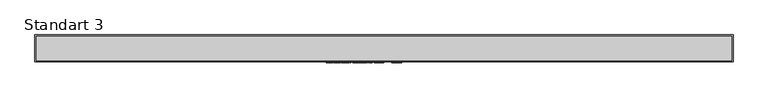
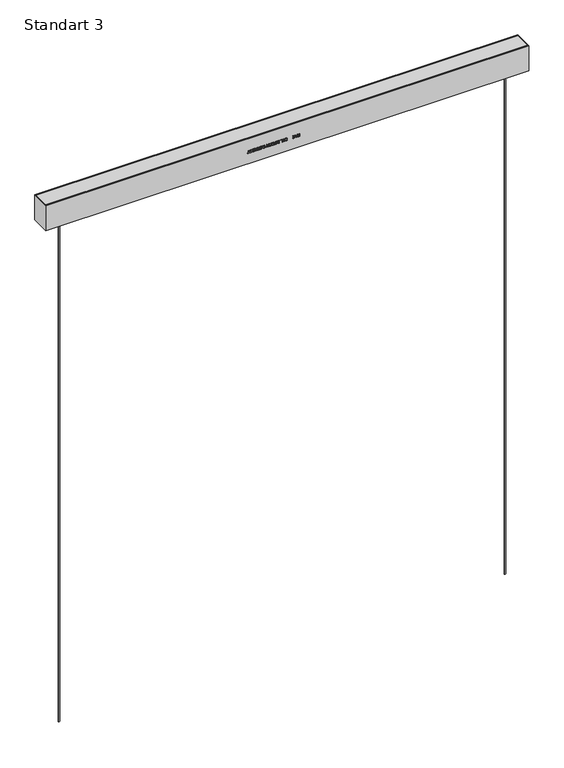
"""IFC4 building model written with IfcOpenShell, lengths in millimetres: light fixture geometry, EAE_STL_DIRECT_INDIRECT_TK_62W : Standart 3."""

from ifc_helpers import new_model, si_unit, point, frame, frame_2d, origin, origin_with_axes, place, context, project, spatial, polyline, circle_curve, trimmed, segment, composite_curve, outline, extrude, source, transform, mapped, element, save


def standart_3_6d86efcd(model_context):
    return source(origin(), model_context, "Body", "SweptSolid", [
        extrude(outline(polyline([(1662.8476945, -76.4051608), (1662.8476945, -140.4051608), (-151.1523055, -140.4051608), (-151.1523055, -76.4051608), (1662.8476945, -76.4051608)])), frame((0.0, 0.0, 2000.0), z_axis=(0.0, 0.0, 1.0), x_axis=(1.0, 0.0, 0.0)), (0.0, 0.0, 1.0), 2.0),
        extrude(outline(composite_curve([segment(trimmed(circle_curve(frame_2d((1595.8476945, -108.4051608)), 2.5), [point((1593.3476945, -108.4051608))], [point((1598.3476945, -108.4051608))], False, "CARTESIAN"), True, "CONTINUOUS"), segment(trimmed(circle_curve(frame_2d((1595.8476945, -108.4051608)), 2.5), [point((1598.3476945, -108.4051608))], [point((1593.3476945, -108.4051608))], False, "CARTESIAN"), True, "CONTINUOUS")], self_intersect=False)), origin_with_axes(), (0.0, 0.0, 1.0), 2000.0),
        extrude(outline(composite_curve([segment(trimmed(circle_curve(frame_2d((-84.1523055, -108.4051608)), 2.5), [point((-86.6523055, -108.4051608))], [point((-81.6523055, -108.4051608))], False, "CARTESIAN"), True, "CONTINUOUS"), segment(trimmed(circle_curve(frame_2d((-84.1523055, -108.4051608)), 2.5), [point((-81.6523055, -108.4051608))], [point((-86.6523055, -108.4051608))], False, "CARTESIAN"), True, "CONTINUOUS")], self_intersect=False)), origin_with_axes(), (0.0, 0.0, 1.0), 2000.0),
        extrude(outline(polyline([(2048.7063353, 755.2198426), (2050.6242268, 754.6778298), (2051.8946459, 753.2590316), (2052.3164839, 751.0161777), (2051.9253027, 749.1166803), (2050.8290144, 747.8217357), (2049.3268296, 747.3716934), (2047.9068051, 747.7628746), (2046.8889982, 748.9781114), (2046.2586937, 751.2001187), (2045.5572654, 753.2504477), (2044.6866114, 753.6502128), (2043.644279, 753.086127), (2043.2126308, 751.2884103), (2043.6491841, 749.4955988), (2044.9392237, 748.7843602), (2044.9392237, 747.5286564), (2043.3671413, 748.0265233), (2042.3149988, 749.3508985), (2041.956927, 751.3374613), (2042.2990572, 753.1989442), (2043.3021488, 754.4705896), (2044.7233996, 754.9059166), (2045.9717458, 754.5539762), (2046.9061661, 753.4858921), (2047.5254341, 751.5177235), (2048.004907, 749.6893499), (2048.575124, 748.8358637), (2049.3587127, 748.6273972), (2050.2011625, 748.9057613), (2050.8314669, 749.7531162), (2051.0607801, 751.0652286), (2050.7578905, 752.5710922), (2049.9632654, 753.5594685), (2048.7063353, 753.9641387), (2048.7063353, 755.2198426)])), frame((0.0, -145.4051608, 0.0), z_axis=(0.0, 1.0, 0.0), x_axis=(0.0, 0.0, 1.0)), (0.0, 0.0, 1.0), 2.0),
        extrude(outline(polyline([(2052.1595209, 742.9767298), (2052.1595209, 741.7210259), (2043.3695938, 741.7210259), (2043.3695938, 738.4248033), (2042.1138899, 738.4248033), (2042.1138899, 746.2729525), (2043.3695938, 746.2729525), (2043.3695938, 742.9767298), (2052.1595209, 742.9767298)])), frame((0.0, -145.4051608, 0.0), z_axis=(0.0, 1.0, 0.0), x_axis=(0.0, 0.0, 1.0)), (0.0, 0.0, 1.0), 2.0),
        extrude(outline(polyline([(2052.1595209, 737.0121364), (2052.1595209, 730.733617), (2050.9038171, 730.733617), (2050.9038171, 735.7564325), (2042.1138899, 735.7564325), (2042.1138899, 737.0121364), (2052.1595209, 737.0121364)])), frame((0.0, -145.4051608, 0.0), z_axis=(0.0, 1.0, 0.0), x_axis=(0.0, 0.0, 1.0)), (0.0, 0.0, 1.0), 2.0),
        extrude(outline(polyline([(2052.1595209, 725.3968755), (2052.1595209, 721.764654), (2051.9878427, 720.149652), (2051.4838444, 718.9491304), (2050.5727233, 718.031878), (2049.1097792, 717.3451649), (2047.0827494, 717.0778373), (2044.693969, 717.4726974), (2042.9771864, 718.6621825), (2042.2585902, 720.1386155), (2042.1138899, 721.9314271), (2042.1138899, 725.3968755), (2052.1595209, 725.3968755)]), holes=[polyline([(2050.9038171, 724.1411717), (2043.3695938, 724.1411717), (2043.3695938, 721.9535001), (2043.5707026, 720.1729512), (2044.6841588, 718.8694227), (2047.063129, 718.3335412), (2048.9626264, 718.6070002), (2050.2097464, 719.3709684), (2050.7223286, 720.3029362), (2050.9038171, 721.9191644), (2050.9038171, 724.1411717)])]), frame((0.0, -145.4051608, 0.0), z_axis=(0.0, 1.0, 0.0), x_axis=(0.0, 0.0, 1.0)), (0.0, 0.0, 1.0), 2.0),
        extrude(outline(polyline([(715.1942815, -145.4051608), (713.9385777, -145.4051608), (713.9385777, -143.4051608), (715.1942815, -143.4051608), (715.1942815, -145.4051608)])), frame((0.0, 0.0, 2042.1138899), z_axis=(0.0, 0.0, 1.0), x_axis=(1.0, 0.0, 0.0)), (0.0, 0.0, 1.0), 10.045631),
        extrude(outline(polyline([(2052.1595209, 711.4271699), (2052.1595209, 710.171466), (2047.7645574, 710.171466), (2048.0478265, 707.3301907), (2048.6989776, 706.6667769), (2050.0773089, 705.7225464), (2052.1595209, 704.4153391), (2052.1595209, 702.9560738), (2049.4371942, 704.6311632), (2048.1447021, 705.64897), (2047.6075944, 706.3626611), (2046.6731741, 704.2596024), (2044.8631947, 703.5790207), (2043.3438421, 703.9898222), (2042.3848963, 705.0885631), (2042.1138899, 707.0984251), (2042.1138899, 711.4271699), (2052.1595209, 711.4271699)]), holes=[polyline([(2046.5088535, 710.171466), (2043.3695938, 710.171466), (2043.3695938, 707.0444691), (2043.8036946, 705.3657009), (2044.9097931, 704.8347245), (2045.7620531, 705.1130886), (2046.3310439, 705.9273341), (2046.5088535, 707.3608476), (2046.5088535, 710.171466)])]), frame((0.0, -145.4051608, 0.0), z_axis=(0.0, 1.0, 0.0), x_axis=(0.0, 0.0, 1.0)), (0.0, 0.0, 1.0), 2.0),
        extrude(outline(polyline([(2052.1595209, 701.3815389), (2052.1595209, 694.0042786), (2050.9038171, 694.0042786), (2050.9038171, 700.125835), (2047.6075944, 700.125835), (2047.6075944, 694.4751676), (2046.3518905, 694.4751676), (2046.3518905, 700.125835), (2043.3695938, 700.125835), (2043.3695938, 694.1612416), (2042.1138899, 694.1612416), (2042.1138899, 701.3815389), (2052.1595209, 701.3815389)])), frame((0.0, -145.4051608, 0.0), z_axis=(0.0, 1.0, 0.0), x_axis=(0.0, 0.0, 1.0)), (0.0, 0.0, 1.0), 2.0),
        extrude(outline(polyline([(2048.588613, 685.0573885), (2050.4378332, 686.12302), (2051.0607801, 688.0445903), (2050.6033801, 689.7773145), (2049.2213701, 690.9569894), (2047.0582239, 691.3359079), (2045.191836, 691.0158505), (2043.7497385, 689.9060732), (2043.2126308, 687.9415833), (2043.6970088, 686.2444211), (2045.2408869, 685.2143515), (2044.9416762, 683.9586476), (2042.7392893, 685.3774458), (2041.956927, 687.8925324), (2042.5614797, 690.3058383), (2044.3309921, 691.9968692), (2047.0606765, 692.5916117), (2049.7462151, 692.0655405), (2051.6567489, 690.5326988), (2052.3164839, 687.9195104), (2051.4446036, 685.2903804), (2048.9123492, 683.8016846), (2048.588613, 685.0573885)])), frame((0.0, -145.4051608, 0.0), z_axis=(0.0, 1.0, 0.0), x_axis=(0.0, 0.0, 1.0)), (0.0, 0.0, 1.0), 2.0),
        extrude(outline(polyline([(2052.1595209, 679.563684), (2052.1595209, 678.3079801), (2043.3695938, 678.3079801), (2043.3695938, 675.0117575), (2042.1138899, 675.0117575), (2042.1138899, 682.8599067), (2043.3695938, 682.8599067), (2043.3695938, 679.563684), (2052.1595209, 679.563684)])), frame((0.0, -145.4051608, 0.0), z_axis=(0.0, 1.0, 0.0), x_axis=(0.0, 0.0, 1.0)), (0.0, 0.0, 1.0), 2.0),
        extrude(outline(polyline([(669.518053, -145.4051608), (668.2623491, -145.4051608), (668.2623491, -143.4051608), (669.518053, -143.4051608), (669.518053, -145.4051608)])), frame((0.0, 0.0, 2042.1138899), z_axis=(0.0, 0.0, 1.0), x_axis=(1.0, 0.0, 0.0)), (0.0, 0.0, 1.0), 10.045631),
        extrude(outline(polyline([(2052.1595209, 665.7509414), (2052.1595209, 664.4952375), (2044.1985546, 664.4952375), (2052.1595209, 659.2467877), (2052.1595209, 657.9027921), (2042.1138899, 657.9027921), (2042.1138899, 659.158496), (2050.0724038, 659.158496), (2042.1138899, 664.4069458), (2042.1138899, 665.7509414), (2052.1595209, 665.7509414)])), frame((0.0, -145.4051608, 0.0), z_axis=(0.0, 1.0, 0.0), x_axis=(0.0, 0.0, 1.0)), (0.0, 0.0, 1.0), 2.0),
        extrude(outline(polyline([(2052.1595209, 655.7053104), (2052.1595209, 652.0730888), (2051.9878427, 650.4580868), (2051.4838444, 649.2575653), (2050.5727233, 648.3403128), (2049.1097792, 647.6535998), (2047.0827494, 647.3862722), (2044.693969, 647.7811322), (2042.9771864, 648.9706173), (2042.2585902, 650.4470504), (2042.1138899, 652.239862), (2042.1138899, 655.7053104), (2052.1595209, 655.7053104)]), holes=[polyline([(2050.9038171, 654.4496065), (2043.3695938, 654.4496065), (2043.3695938, 652.2619349), (2043.5707026, 650.481386), (2044.6841588, 649.1778575), (2047.063129, 648.6419761), (2048.9626264, 648.915435), (2050.2097464, 649.6794033), (2050.7223286, 650.611371), (2050.9038171, 652.2275992), (2050.9038171, 654.4496065)])]), frame((0.0, -145.4051608, 0.0), z_axis=(0.0, 1.0, 0.0), x_axis=(0.0, 0.0, 1.0)), (0.0, 0.0, 1.0), 2.0),
        extrude(outline(polyline([(645.5027164, -145.4051608), (644.2470125, -145.4051608), (644.2470125, -143.4051608), (645.5027164, -143.4051608), (645.5027164, -145.4051608)])), frame((0.0, 0.0, 2042.1138899), z_axis=(0.0, 0.0, 1.0), x_axis=(1.0, 0.0, 0.0)), (0.0, 0.0, 1.0), 10.045631),
        extrude(outline(polyline([(2052.1595209, 641.7356047), (2052.1595209, 640.4799009), (2047.7645574, 640.4799009), (2048.0478265, 637.6386256), (2048.6989776, 636.9752117), (2050.0773089, 636.0309813), (2052.1595209, 634.7237739), (2052.1595209, 633.2645087), (2049.4371942, 634.939598), (2048.1447021, 635.9574049), (2047.6075944, 636.6710959), (2046.6731741, 634.5680372), (2044.8631947, 633.8874555), (2043.3438421, 634.2982571), (2042.3848963, 635.396998), (2042.1138899, 637.4068599), (2042.1138899, 641.7356047), (2052.1595209, 641.7356047)]), holes=[polyline([(2046.5088535, 640.4799009), (2043.3695938, 640.4799009), (2043.3695938, 637.3529039), (2043.8036946, 635.6741357), (2044.9097931, 635.1431594), (2045.7620531, 635.4215234), (2046.3310439, 636.2357689), (2046.5088535, 637.6692824), (2046.5088535, 640.4799009)])]), frame((0.0, -145.4051608, 0.0), z_axis=(0.0, 1.0, 0.0), x_axis=(0.0, 0.0, 1.0)), (0.0, 0.0, 1.0), 2.0),
        extrude(outline(polyline([(2052.1595209, 631.6899737), (2052.1595209, 624.3127134), (2050.9038171, 624.3127134), (2050.9038171, 630.4342698), (2047.6075944, 630.4342698), (2047.6075944, 624.7836024), (2046.3518905, 624.7836024), (2046.3518905, 630.4342698), (2043.3695938, 630.4342698), (2043.3695938, 624.4696764), (2042.1138899, 624.4696764), (2042.1138899, 631.6899737), (2052.1595209, 631.6899737)])), frame((0.0, -145.4051608, 0.0), z_axis=(0.0, 1.0, 0.0), x_axis=(0.0, 0.0, 1.0)), (0.0, 0.0, 1.0), 2.0),
        extrude(outline(polyline([(2048.588613, 615.3658233), (2050.4378332, 616.4314548), (2051.0607801, 618.3530251), (2050.6033801, 620.0857493), (2049.2213701, 621.2654242), (2047.0582239, 621.6443427), (2045.191836, 621.3242854), (2043.7497385, 620.214508), (2043.2126308, 618.2500182), (2043.6970088, 616.5528559), (2045.2408869, 615.5227863), (2044.9416762, 614.2670824), (2042.7392893, 615.6858807), (2041.956927, 618.2009672), (2042.5614797, 620.6142731), (2044.3309921, 622.305304), (2047.0606765, 622.9000466), (2049.7462151, 622.3739753), (2051.6567489, 620.8411337), (2052.3164839, 618.2279452), (2051.4446036, 615.5988152), (2048.9123492, 614.1101194), (2048.588613, 615.3658233)])), frame((0.0, -145.4051608, 0.0), z_axis=(0.0, 1.0, 0.0), x_axis=(0.0, 0.0, 1.0)), (0.0, 0.0, 1.0), 2.0),
        extrude(outline(polyline([(2052.1595209, 609.8721189), (2052.1595209, 608.616415), (2043.3695938, 608.616415), (2043.3695938, 605.3201923), (2042.1138899, 605.3201923), (2042.1138899, 613.1683415), (2043.3695938, 613.1683415), (2043.3695938, 609.8721189), (2052.1595209, 609.8721189)])), frame((0.0, -145.4051608, 0.0), z_axis=(0.0, 1.0, 0.0), x_axis=(0.0, 0.0, 1.0)), (0.0, 0.0, 1.0), 2.0),
        extrude(outline(polyline([(2052.1595209, 802.0015407), (2052.1595209, 794.7707715), (2050.9287517, 794.7707715), (2050.9287517, 800.7707715), (2047.6979825, 800.7707715), (2047.6979825, 795.2323099), (2046.4672133, 795.2323099), (2046.4672133, 800.7707715), (2043.5441363, 800.7707715), (2043.5441363, 794.9246176), (2042.3133671, 794.9246176), (2042.3133671, 802.0015407), (2052.1595209, 802.0015407)])), frame((0.0, -145.4051608, 0.0), z_axis=(0.0, 1.0, 0.0), x_axis=(0.0, 0.0, 1.0)), (0.0, 0.0, 1.0), 2.0),
        extrude(outline(polyline([(2052.1595209, 794.0712522), (2052.1595209, 792.7707715), (2049.0825979, 791.6457715), (2049.0825979, 787.590483), (2052.1595209, 786.4630792), (2052.1595209, 785.1625984), (2042.3133671, 789.0928868), (2042.3133671, 790.1409638), (2052.1595209, 794.0712522)]), holes=[polyline([(2047.8518286, 791.1938484), (2045.2196171, 790.2299061), (2043.5441363, 789.6169253), (2045.4311556, 788.9270215), (2047.8518286, 788.0400022), (2047.8518286, 791.1938484)])]), frame((0.0, -145.4051608, 0.0), z_axis=(0.0, 1.0, 0.0), x_axis=(0.0, 0.0, 1.0)), (0.0, 0.0, 1.0), 2.0),
        extrude(outline(polyline([(2052.1595209, 783.8476945), (2052.1595209, 776.6169253), (2050.9287517, 776.6169253), (2050.9287517, 782.6169253), (2047.6979825, 782.6169253), (2047.6979825, 777.0784638), (2046.4672133, 777.0784638), (2046.4672133, 782.6169253), (2043.5441363, 782.6169253), (2043.5441363, 776.7707715), (2042.3133671, 776.7707715), (2042.3133671, 783.8476945), (2052.1595209, 783.8476945)])), frame((0.0, -145.4051608, 0.0), z_axis=(0.0, 1.0, 0.0), x_axis=(0.0, 0.0, 1.0)), (0.0, 0.0, 1.0), 2.0),
        extrude(outline(polyline([(1662.8476945, -76.4051608), (1662.8476945, -140.4051608), (-151.1523055, -140.4051608), (-151.1523055, -76.4051608), (1662.8476945, -76.4051608)])), frame((0.0, 0.0, 2095.0), z_axis=(0.0, 0.0, 1.0), x_axis=(1.0, 0.0, 0.0)), (0.0, 0.0, 1.0), 5.0),
        extrude(outline(polyline([(1665.8476945, -73.4051608), (1665.8476945, -143.4051608), (-154.1523055, -143.4051608), (-154.1523055, -73.4051608), (1665.8476945, -73.4051608)]), holes=[polyline([(1662.8476945, -76.4051608), (-151.1523055, -76.4051608), (-151.1523055, -140.4051608), (1662.8476945, -140.4051608), (1662.8476945, -76.4051608)])]), frame((0.0, 0.0, 2000.0), z_axis=(0.0, 0.0, 1.0), x_axis=(1.0, 0.0, 0.0)), (0.0, 0.0, 1.0), 100.0),
    ])


if __name__ == "__main__":
    model = new_model("IFC4")
    model_context = context("Model", 3, world=origin())
    ifc_project = project(units=[si_unit("LENGTHUNIT", "METRE", prefix="MILLI")], contexts=[model_context])
    site = spatial("IfcSite", under=ifc_project)
    building = spatial("IfcBuilding", under=site)
    placement = place(None, origin())
    standart_3_shape = standart_3_6d86efcd(model_context)
    element("IfcLightFixture", 1, ObjectType="EAE_STL_DIRECT_INDIRECT_TK_62W : Standart 3", at=placement, inside=building, context=model_context, shape_type="MappedRepresentation", body=[
        mapped(standart_3_shape, transform((0.0, 0.0, 0.0), x_axis=(1.0, 0.0, 0.0), y_axis=(0.0, 1.0, 0.0), z_axis=(0.0, 0.0, 1.0))),
    ])
    save(model, "model.ifc")
